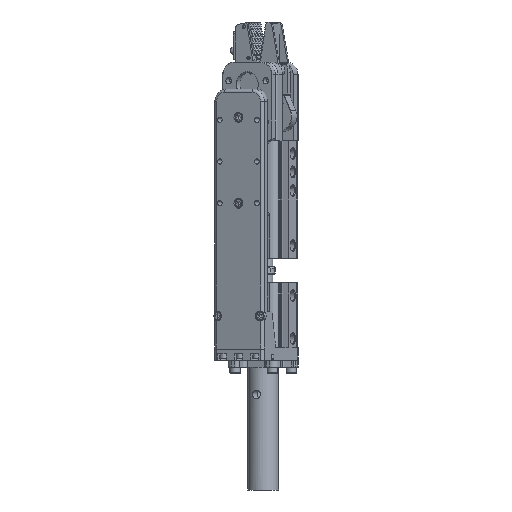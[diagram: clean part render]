
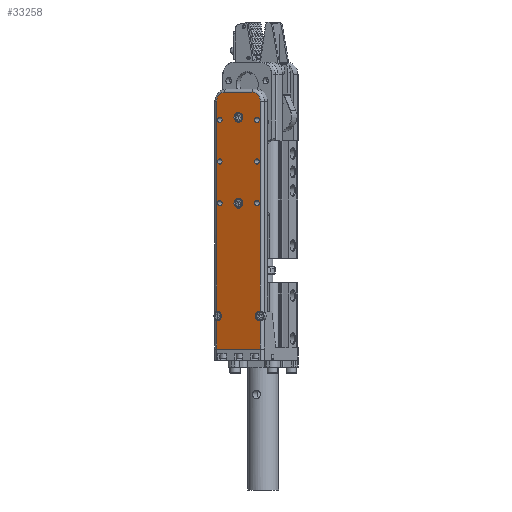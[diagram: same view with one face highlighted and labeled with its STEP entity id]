
A CAD part, left-side view. The second image highlights one B-rep face of the part: STEP entity #33258.
In plain terms, the highlighted planar face has unit normal (-0.89, 0.456, 0).
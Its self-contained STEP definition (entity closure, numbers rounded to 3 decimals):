
#2404=LINE('',#79870,#6300);
#2735=LINE('',#81117,#6631);
#2736=LINE('',#81141,#6632);
#2740=LINE('',#81151,#6636);
#2741=LINE('',#81154,#6637);
#2742=LINE('',#81158,#6638);
#6300=VECTOR('',#68204,1.);
#6631=VECTOR('',#69603,1.);
#6632=VECTOR('',#69608,1.);
#6636=VECTOR('',#69618,1.);
#6637=VECTOR('',#69621,1.);
#6638=VECTOR('',#69624,1.);
#30770=PLANE('',#61131);
#33258=ADVANCED_FACE('',(#36523,#36524,#36525,#36526,#36527,#36528,#36529,
#36530,#36531),#30770,.T.);
#35448=CIRCLE('',#61119,4.);
#35449=CIRCLE('',#61120,4.);
#35450=CIRCLE('',#61121,7.5);
#35451=CIRCLE('',#61122,7.5);
#35452=CIRCLE('',#61123,2.1);
#35453=CIRCLE('',#61124,2.1);
#35454=CIRCLE('',#61125,2.1);
#35455=CIRCLE('',#61126,2.1);
#35456=CIRCLE('',#61127,2.1);
#35457=CIRCLE('',#61128,2.1);
#35458=CIRCLE('',#61129,4.);
#35459=CIRCLE('',#61130,4.);
#36523=FACE_BOUND('',#38926,.T.);
#36524=FACE_BOUND('',#38927,.T.);
#36525=FACE_BOUND('',#38928,.T.);
#36526=FACE_BOUND('',#38929,.T.);
#36527=FACE_BOUND('',#38930,.T.);
#36528=FACE_BOUND('',#38931,.T.);
#36529=FACE_BOUND('',#38932,.T.);
#36530=FACE_BOUND('',#38933,.T.);
#36531=FACE_BOUND('',#38934,.T.);
#38926=EDGE_LOOP('',(#46332,#46333,#46334,#46335,#46336,#46337,#46338,#46339,
#46340,#46341));
#38927=EDGE_LOOP('',(#46342));
#38928=EDGE_LOOP('',(#46343));
#38929=EDGE_LOOP('',(#46344));
#38930=EDGE_LOOP('',(#46345));
#38931=EDGE_LOOP('',(#46346));
#38932=EDGE_LOOP('',(#46347));
#38933=EDGE_LOOP('',(#46348));
#38934=EDGE_LOOP('',(#46349));
#46332=ORIENTED_EDGE('',*,*,#56570,.F.);
#46333=ORIENTED_EDGE('',*,*,#56571,.T.);
#46334=ORIENTED_EDGE('',*,*,#56017,.T.);
#46335=ORIENTED_EDGE('',*,*,#56566,.T.);
#46336=ORIENTED_EDGE('',*,*,#56572,.F.);
#46337=ORIENTED_EDGE('',*,*,#56573,.T.);
#46338=ORIENTED_EDGE('',*,*,#56574,.T.);
#46339=ORIENTED_EDGE('',*,*,#56575,.T.);
#46340=ORIENTED_EDGE('',*,*,#56576,.T.);
#46341=ORIENTED_EDGE('',*,*,#56563,.T.);
#46342=ORIENTED_EDGE('',*,*,#56577,.F.);
#46343=ORIENTED_EDGE('',*,*,#56578,.F.);
#46344=ORIENTED_EDGE('',*,*,#56579,.F.);
#46345=ORIENTED_EDGE('',*,*,#56580,.F.);
#46346=ORIENTED_EDGE('',*,*,#56581,.F.);
#46347=ORIENTED_EDGE('',*,*,#56582,.F.);
#46348=ORIENTED_EDGE('',*,*,#56583,.F.);
#46349=ORIENTED_EDGE('',*,*,#56584,.F.);
#51940=VERTEX_POINT('',#79869);
#51941=VERTEX_POINT('',#79871);
#52303=VERTEX_POINT('',#81116);
#52304=VERTEX_POINT('',#81118);
#52305=VERTEX_POINT('',#81140);
#52308=VERTEX_POINT('',#81150);
#52309=VERTEX_POINT('',#81153);
#52310=VERTEX_POINT('',#81155);
#52311=VERTEX_POINT('',#81157);
#52312=VERTEX_POINT('',#81159);
#52313=VERTEX_POINT('',#81162);
#52314=VERTEX_POINT('',#81164);
#52315=VERTEX_POINT('',#81166);
#52316=VERTEX_POINT('',#81168);
#52317=VERTEX_POINT('',#81170);
#52318=VERTEX_POINT('',#81172);
#52319=VERTEX_POINT('',#81174);
#52320=VERTEX_POINT('',#81176);
#56017=EDGE_CURVE('',#51941,#51940,#2404,.T.);
#56563=EDGE_CURVE('',#52304,#52303,#2735,.T.);
#56566=EDGE_CURVE('',#51940,#52305,#2736,.T.);
#56570=EDGE_CURVE('',#52308,#52303,#35448,.T.);
#56571=EDGE_CURVE('',#52308,#51941,#2740,.T.);
#56572=EDGE_CURVE('',#52309,#52305,#35449,.T.);
#56573=EDGE_CURVE('',#52309,#52310,#2741,.T.);
#56574=EDGE_CURVE('',#52310,#52311,#35450,.T.);
#56575=EDGE_CURVE('',#52311,#52312,#2742,.T.);
#56576=EDGE_CURVE('',#52312,#52304,#35451,.T.);
#56577=EDGE_CURVE('',#52313,#52313,#35452,.T.);
#56578=EDGE_CURVE('',#52314,#52314,#35453,.T.);
#56579=EDGE_CURVE('',#52315,#52315,#35454,.T.);
#56580=EDGE_CURVE('',#52316,#52316,#35455,.T.);
#56581=EDGE_CURVE('',#52317,#52317,#35456,.T.);
#56582=EDGE_CURVE('',#52318,#52318,#35457,.T.);
#56583=EDGE_CURVE('',#52319,#52319,#35458,.T.);
#56584=EDGE_CURVE('',#52320,#52320,#35459,.T.);
#61119=AXIS2_PLACEMENT_3D('',#81149,#69616,#69617);
#61120=AXIS2_PLACEMENT_3D('',#81152,#69619,#69620);
#61121=AXIS2_PLACEMENT_3D('',#81156,#69622,#69623);
#61122=AXIS2_PLACEMENT_3D('',#81160,#69625,#69626);
#61123=AXIS2_PLACEMENT_3D('',#81161,#69627,#69628);
#61124=AXIS2_PLACEMENT_3D('',#81163,#69629,#69630);
#61125=AXIS2_PLACEMENT_3D('',#81165,#69631,#69632);
#61126=AXIS2_PLACEMENT_3D('',#81167,#69633,#69634);
#61127=AXIS2_PLACEMENT_3D('',#81169,#69635,#69636);
#61128=AXIS2_PLACEMENT_3D('',#81171,#69637,#69638);
#61129=AXIS2_PLACEMENT_3D('',#81173,#69639,#69640);
#61130=AXIS2_PLACEMENT_3D('',#81175,#69641,#69642);
#61131=AXIS2_PLACEMENT_3D('',#81177,#69643,#69644);
#68204=DIRECTION('',(-0.456,-0.89,0.));
#69603=DIRECTION('',(0.,0.,-1.));
#69608=DIRECTION('',(0.,0.,1.));
#69616=DIRECTION('',(-0.89,0.456,0.));
#69617=DIRECTION('',(-0.456,-0.89,0.));
#69618=DIRECTION('',(0.,0.,-1.));
#69619=DIRECTION('',(-0.89,0.456,0.));
#69620=DIRECTION('',(-0.456,-0.89,0.));
#69621=DIRECTION('',(0.,0.,1.));
#69622=DIRECTION('',(-0.89,0.456,0.));
#69623=DIRECTION('',(-0.456,-0.89,0.));
#69624=DIRECTION('',(0.456,0.89,0.));
#69625=DIRECTION('',(-0.89,0.456,0.));
#69626=DIRECTION('',(-0.456,-0.89,0.));
#69627=DIRECTION('',(-0.89,0.456,0.));
#69628=DIRECTION('',(-0.456,-0.89,0.));
#69629=DIRECTION('',(-0.89,0.456,0.));
#69630=DIRECTION('',(-0.456,-0.89,0.));
#69631=DIRECTION('',(-0.89,0.456,0.));
#69632=DIRECTION('',(-0.456,-0.89,0.));
#69633=DIRECTION('',(-0.89,0.456,0.));
#69634=DIRECTION('',(-0.456,-0.89,0.));
#69635=DIRECTION('',(-0.89,0.456,0.));
#69636=DIRECTION('',(-0.456,-0.89,0.));
#69637=DIRECTION('',(-0.89,0.456,0.));
#69638=DIRECTION('',(-0.456,-0.89,0.));
#69639=DIRECTION('',(-0.89,0.456,0.));
#69640=DIRECTION('',(-0.456,-0.89,0.));
#69641=DIRECTION('',(-0.89,0.456,0.));
#69642=DIRECTION('',(-0.456,-0.89,0.));
#69643=DIRECTION('',(-0.89,0.456,0.));
#69644=DIRECTION('',(-0.456,-0.89,0.));
#79869=CARTESIAN_POINT('',(-48.68,2.46,115.));
#79870=CARTESIAN_POINT('',(-49.82,0.235,115.));
#79871=CARTESIAN_POINT('',(-30.447,38.063,115.));
#81116=CARTESIAN_POINT('',(-30.447,38.063,145.969));
#81117=CARTESIAN_POINT('',(-30.447,38.063,115.));
#81118=CARTESIAN_POINT('',(-30.447,38.063,317.));
#81140=CARTESIAN_POINT('',(-48.68,2.46,138.031));
#81141=CARTESIAN_POINT('',(-48.68,2.46,317.));
#81149=CARTESIAN_POINT('',(-30.675,37.618,142.));
#81150=CARTESIAN_POINT('',(-30.447,38.063,138.031));
#81151=CARTESIAN_POINT('',(-30.447,38.063,115.));
#81152=CARTESIAN_POINT('',(-48.452,2.905,142.));
#81153=CARTESIAN_POINT('',(-48.68,2.46,145.969));
#81154=CARTESIAN_POINT('',(-48.68,2.46,317.));
#81155=CARTESIAN_POINT('',(-48.68,2.46,317.));
#81156=CARTESIAN_POINT('',(-45.261,9.135,317.));
#81157=CARTESIAN_POINT('',(-45.261,9.135,324.5));
#81158=CARTESIAN_POINT('',(-33.866,31.387,324.5));
#81159=CARTESIAN_POINT('',(-33.866,31.387,324.5));
#81160=CARTESIAN_POINT('',(-33.866,31.387,317.));
#81161=CARTESIAN_POINT('',(-31.815,35.392,302.));
#81162=CARTESIAN_POINT('',(-32.772,33.523,302.));
#81163=CARTESIAN_POINT('',(-47.313,5.13,302.));
#81164=CARTESIAN_POINT('',(-48.27,3.261,302.));
#81165=CARTESIAN_POINT('',(-47.313,5.13,268.));
#81166=CARTESIAN_POINT('',(-48.27,3.261,268.));
#81167=CARTESIAN_POINT('',(-31.815,35.392,268.));
#81168=CARTESIAN_POINT('',(-32.772,33.523,268.));
#81169=CARTESIAN_POINT('',(-31.815,35.392,234.));
#81170=CARTESIAN_POINT('',(-32.772,33.523,234.));
#81171=CARTESIAN_POINT('',(-47.313,5.13,234.));
#81172=CARTESIAN_POINT('',(-48.27,3.261,234.));
#81173=CARTESIAN_POINT('',(-39.564,20.261,234.));
#81174=CARTESIAN_POINT('',(-41.387,16.701,234.));
#81175=CARTESIAN_POINT('',(-39.564,20.261,304.));
#81176=CARTESIAN_POINT('',(-41.387,16.701,304.));
#81177=CARTESIAN_POINT('',(-39.564,20.261,254.5));
